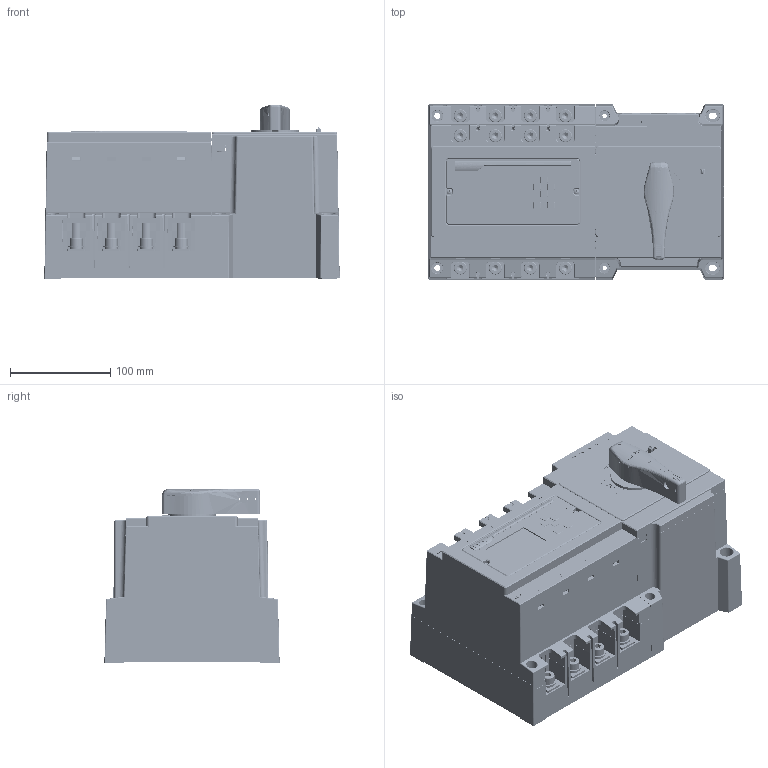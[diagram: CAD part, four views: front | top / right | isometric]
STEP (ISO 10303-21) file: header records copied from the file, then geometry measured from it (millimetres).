
FILE_DESCRIPTION((''),'2;1');
FILE_NAME('2ZTD_644_134_ASM_1_ASM','2018-11-13T',('hongsc'),(''),'CREO PARAMETRIC BY PTC INC, 2015480','CREO PARAMETRIC BY PTC INC, 2015480','');
FILE_SCHEMA(('CONFIG_CONTROL_DESIGN'));
Products named in the file (256): 8ZTD_024_904_1; T809_M3X6_1_1; T809_M3X6_2_1; T809_M3X6_ASM_1_ASM; T809_M4X16_1; 5ZTD_024_796_ASM_1_ASM; LUOMU_M4_GB_6070__ASM_1_ASM; LUOMU_M8_GB6177__1; LUOMU_M6_GB6177__1_1; LUOMU_M6_GB6177__2_1; LUOMU_M6_GB6177__ASM_1_ASM; 5ZTD_557_285_MODEL_ASM_1; 5ZTD_227_023_ASM_1; 5ZTD_223_026_ASM_1; LUODIN_M3X6_GB823__ASM_1_ASM; LUODIN_M3X6_GB_9074_8__ASM_1_ASM; LLUODIN_M3X8_GB_819_H__ASM_1_ASM; 5ZTD_140_025_MODEL_ASM_1_ASM; T809_M4-8_ASM_1_ASM; 8ZTD_315_1307_1; 5ZTD_315_472_MODEL_ASM_1_ASM; 8ZTD_557_766_1; 8ZTD_557_781_1; LUODIN_M4X16_GB_823__ASM_1_ASM; LUODIN_M4X16_GB_9074_8__ASM_1_ASM; LUODIN_M4X28__GB823_FB__ASM_1_ASM; LUODIN_M4X28_GB_9074_8_FB__ASM__ASM; LUODIN_M8X20_GB_70__1_1; LUODIN_M8X20_GB_70__2_1; LUODIN_M8X20_GB_70__ASM_1_ASM; PINGDIAN_M8_GB_97__1; TANDIAN__M8_GB_93__1; 5ZTD_850_092_JIENM7-250__ASM_1_ASM; LUODIN_ST3_5X16_GB_845__ASM_1_ASM; LUODIN_M4X8_GB_823__ASM_1_ASM; LUODIN_M4X8__GB9074_8__ASM_1_ASM; 5ZTD_024_798_MODEL_ASM_1_ASM; 8ZTD_510_389_1; 8ZTD_024_905_1; T_809_M5X10_ASM_1_ASM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
Assembly tree (408 placements, depth 5):
  2ZTD_644_134_ASM_1_ASM
    5ZTD_024_798_MODEL_ASM_1_ASM
      5ZTD_024_796_ASM_1_ASM
        8ZTD_024_904_1
        T809_M3X6_ASM_1_ASM  x4
          T809_M3X6_1_1
          T809_M3X6_2_1
        T809_M4X16_1  x4
      LUOMU_M4_GB_6070__ASM_1_ASM  x16
      LUOMU_M8_GB6177__1  x8
      LUOMU_M6_GB6177__ASM_1_ASM  x4
        LUOMU_M6_GB6177__1_1
        LUOMU_M6_GB6177__2_1
      5ZTD_557_285_MODEL_ASM_1  x4
      5ZTD_140_025_MODEL_ASM_1_ASM
        5ZTD_227_023_ASM_1  x2
        5ZTD_223_026_ASM_1
        LUODIN_M3X6_GB_9074_8__ASM_1_ASM  x4
          LUODIN_M3X6_GB823__ASM_1_ASM
        LLUODIN_M3X8_GB_819_H__ASM_1_ASM  x2
      5ZTD_315_472_MODEL_ASM_1_ASM
        T809_M4-8_ASM_1_ASM  x4
        8ZTD_315_1307_1
      8ZTD_557_766_1  x4
      8ZTD_557_781_1  x4
      LUODIN_M4X16_GB_9074_8__ASM_1_ASM  x4
        LUODIN_M4X16_GB_823__ASM_1_ASM
      LUODIN_M4X28_GB_9074_8_FB__ASM__ASM  x4
        LUODIN_M4X28__GB823_FB__ASM_1_ASM
      5ZTD_850_092_JIENM7-250__ASM_1_ASM  x8
        LUODIN_M8X20_GB_70__ASM_1_ASM
          LUODIN_M8X20_GB_70__1_1
          LUODIN_M8X20_GB_70__2_1
        PINGDIAN_M8_GB_97__1
        TANDIAN__M8_GB_93__1
      LUODIN_ST3_5X16_GB_845__ASM_1_ASM  x8
      LUODIN_M4X8__GB9074_8__ASM_1_ASM  x4
        LUODIN_M4X8_GB_823__ASM_1_ASM
    8ZTD_510_389_1  x4
    5ZTD_024_799_MODEL_ASM_1_ASM
      5ZTD_024_797_ASM_1_ASM
        8ZTD_024_905_1
        T_809_M5X10_ASM_1_ASM  x2
        T809_M4-8_ASM_1_ASM  x4
      LUOMU_M8_GB6177__1  x4
      8ZTD_557_768_1  x4
      5ZTD_557_285_MODEL_ASM_1  x4
      LUODIN_ST3_5X16_GB_845__ASM_1_ASM  x8
      8ZTD_315_1308_1
      5ZTD_850_092_JIENM7-250__ASM_1_ASM  x4
        LUODIN_M8X20_GB_70__ASM_1_ASM
          LUODIN_M8X20_GB_70__1_1
          LUODIN_M8X20_GB_70__2_1
        PINGDIAN_M8_GB_97__1
        TANDIAN__M8_GB_93__1
      5ZTD_140_025_MODEL_ASM_1_ASM
        5ZTD_227_023_ASM_1  x2
        5ZTD_223_026_ASM_1
        LUODIN_M3X6_GB_9074_8__ASM_1_ASM  x4
          LUODIN_M3X6_GB823__ASM_1_ASM
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Bounding box: 295 x 175 x 174.25 mm (x, y, z)
Volume: 1915343.5 mm3; surface area: 1231680.9 mm2
Topology: 281 solids, 321 shells, 20040 faces, 57165 edges, 38281 vertices
Faces by surface type: plane 12519, cylinder 4586, cone 1112, torus 679, extrusion 618, bspline 400, sphere 126
Entity records: 610763 total; most frequent: CARTESIAN_POINT 186411, ORIENTED_EDGE 92588, DIRECTION 79191, EDGE_CURVE 46320, VECTOR 32773, LINE 32155, VERTEX_POINT 31389, AXIS2_PLACEMENT_3D 23209
